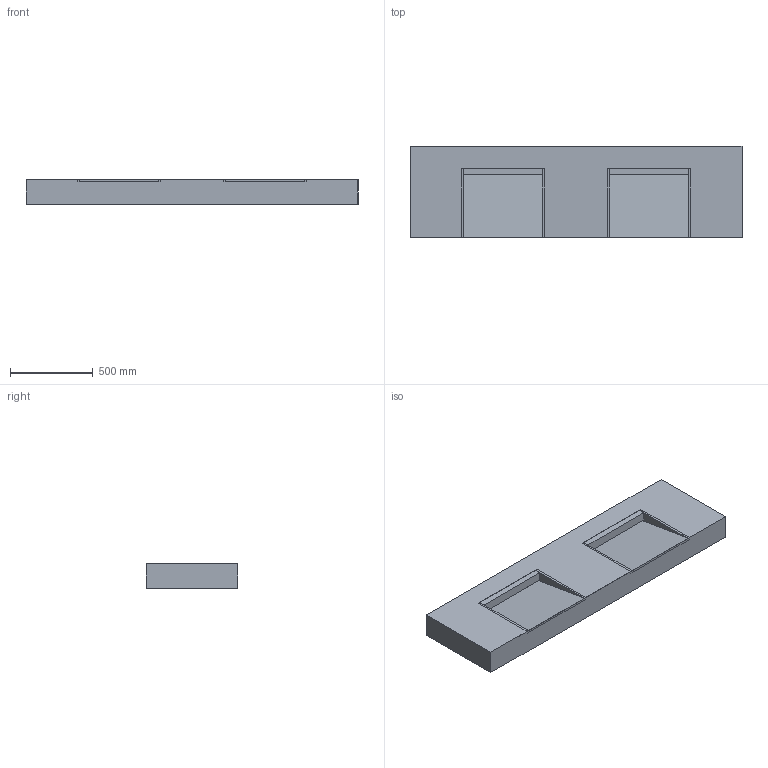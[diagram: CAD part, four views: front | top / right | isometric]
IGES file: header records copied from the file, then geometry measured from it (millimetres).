
Start section:  Autodesk Design for Windows version 2010 IGES version 5.3  Autodesk Design for Windows version 2010 IGES version 5.3
Global section: file name: D:\Desktop\GIOVANNI\SCHEDE PRODOTTO\PIANI LAVABO\SLIM\3D\MOMA DESIGN_PIANI LAVABO_SLIM STYSTEM DOUBLE.igs; native system: Rhinoceros ( Jan 17 2018 ); preprocessor: Trout Lake IGES 012 Jan 17 2018; date: 230607.082136; units: millimetre
Bounding box: 2000 x 550 x 150 mm (x, y, z)
Surface area: 4555808.3 mm2 (no closed solid volume)
Topology: 0 solids, 0 shells, 72 faces, 380 edges, 380 vertices
Faces by surface type: bspline 72
